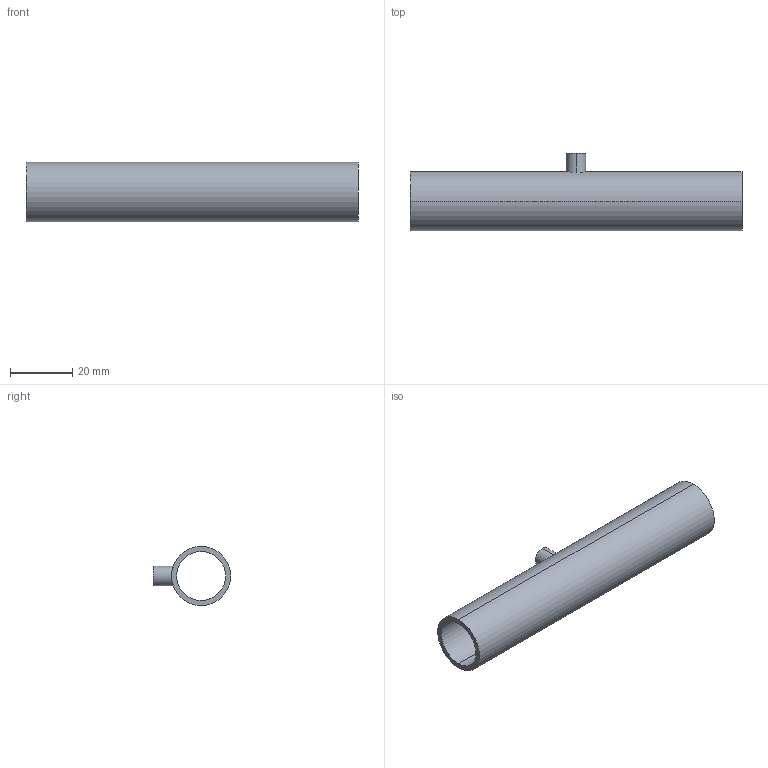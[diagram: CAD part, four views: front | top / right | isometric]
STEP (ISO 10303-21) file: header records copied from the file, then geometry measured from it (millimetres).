
FILE_DESCRIPTION (( 'STEP AP214' ), '1' );
FILE_NAME ('TEG7RS6L.75x.25-...STEP', '2016-05-24T07:56:52', ( 'eran' ), ( '' ), 'SwSTEP 2.0', 'SolidWorks 2016', '' );
FILE_SCHEMA (( 'AUTOMOTIVE_DESIGN' ));
Length unit declared in the file: millimetre
Products named in the file (1): TEG7RS6L.75x.25-..
Bounding box: 107 x 24.93 x 19.05 mm (x, y, z)
Volume: 9716.4 mm3; surface area: 12078 mm2
Topology: 1 solids, 1 shells, 11 faces, 24 edges, 16 vertices
Faces by surface type: cylinder 8, plane 3
Entity records: 464 total; most frequent: CARTESIAN_POINT 172, DIRECTION 56, ORIENTED_EDGE 48, AXIS2_PLACEMENT_3D 24, EDGE_CURVE 24, EDGE_LOOP 16, VERTEX_POINT 16, CIRCLE 12
